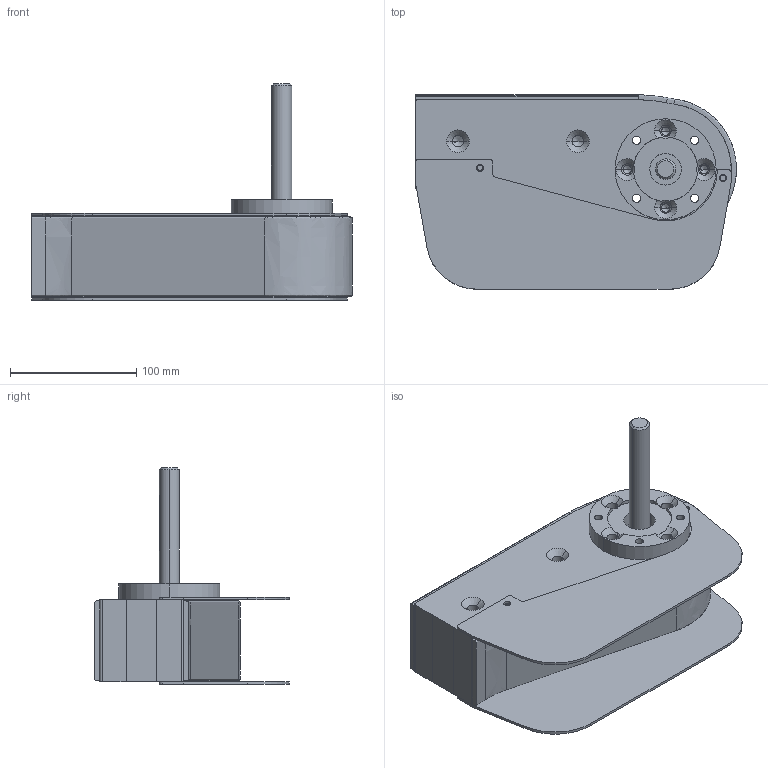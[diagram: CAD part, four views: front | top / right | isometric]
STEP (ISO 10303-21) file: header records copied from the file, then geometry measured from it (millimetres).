
FILE_DESCRIPTION (( 'STEP AP214' ), '1' );
FILE_NAME ('FSDD 250 0R.step', '2017-04-07T11:09:19', ( '' ), ( '' ), 'SwSTEP 2.0', 'SolidWorks 2016', '' );
FILE_SCHEMA (( 'AUTOMOTIVE_DESIGN' ));
Length unit declared in the file: millimetre
Products named in the file (1): FSDD 250 0R
Bounding box: 254 x 154.01 x 171.5 mm (x, y, z)
Volume: 1590853.9 mm3; surface area: 240187.5 mm2
Topology: 1 solids, 3 shells, 254 faces, 619 edges, 370 vertices
Faces by surface type: cylinder 104, plane 70, cone 66, bspline 14
Entity records: 11172 total; most frequent: CARTESIAN_POINT 3343, DIRECTION 1295, ORIENTED_EDGE 1182, EDGE_CURVE 591, AXIS2_PLACEMENT_3D 502, VERTEX_POINT 370, VECTOR 291, EDGE_LOOP 291
